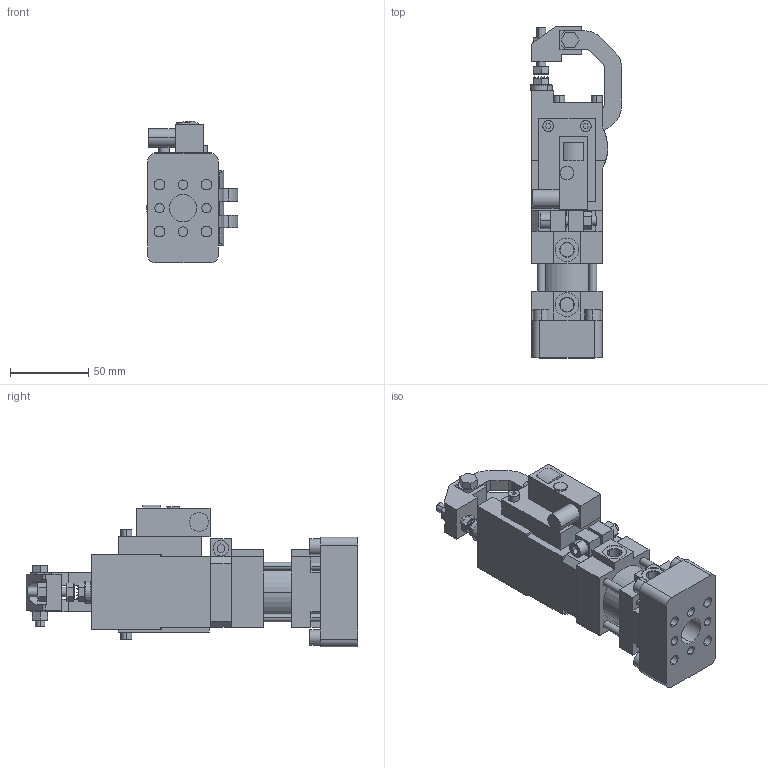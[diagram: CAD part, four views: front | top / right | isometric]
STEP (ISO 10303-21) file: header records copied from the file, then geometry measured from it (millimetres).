
FILE_DESCRIPTION (( 'STEP AP214' ), '1' );
FILE_NAME ('b32_a1s4_pla___a_c.STEP', '2018-05-08T12:51:14', ( 'vepadmin' ), ( 'Hewlett-Packard Company' ), 'SwSTEP 2.0', 'SolidWorks 2018', '' );
FILE_SCHEMA (( 'AUTOMOTIVE_DESIGN' ));
Length unit declared in the file: millimetre
Products named in the file (13): distanziale_b32; tassello_a1_b32; piedino_zigrinato_M6x25; rondella_s4_b32a; piedino_zigrinato_M6x10; blocchetto_p&f_90; scatola_micro_b32; riparo_micro_b32; leva_b32a; gruppo_montante_b32a; b32_a1s4_pla___a_c; attacco_c_b32; gruppo_cilindro_piastra_c_b32
Assembly tree (12 placements, depth 2):
  b32_a1s4_pla___a_c
    gruppo_montante_b32a
    leva_b32a
    riparo_micro_b32
    scatola_micro_b32
    blocchetto_p&f_90
    piedino_zigrinato_M6x10
    rondella_s4_b32a
    piedino_zigrinato_M6x25
    tassello_a1_b32
    distanziale_b32
    gruppo_cilindro_piastra_c_b32
    attacco_c_b32
Bounding box: 58.49 x 212 x 90.6 mm (x, y, z)
Volume: 407506.7 mm3; surface area: 110596.6 mm2
Topology: 12 solids, 12 shells, 819 faces, 1966 edges, 1283 vertices
Faces by surface type: plane 560, cylinder 233, cone 26
Entity records: 24371 total; most frequent: CARTESIAN_POINT 4350, DIRECTION 3992, ORIENTED_EDGE 3920, EDGE_CURVE 1960, VECTOR 1414, LINE 1414, AXIS2_PLACEMENT_3D 1289, VERTEX_POINT 1283
